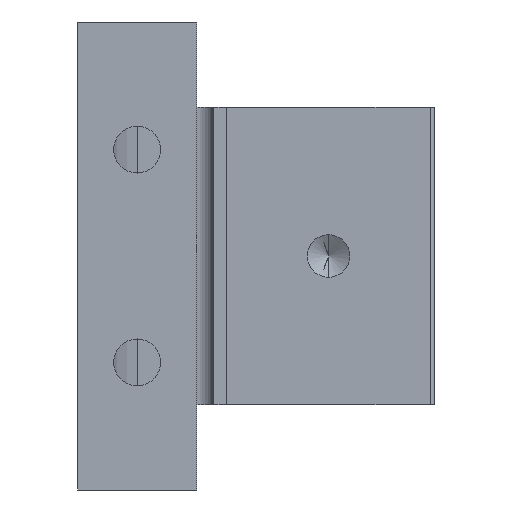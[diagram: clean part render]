
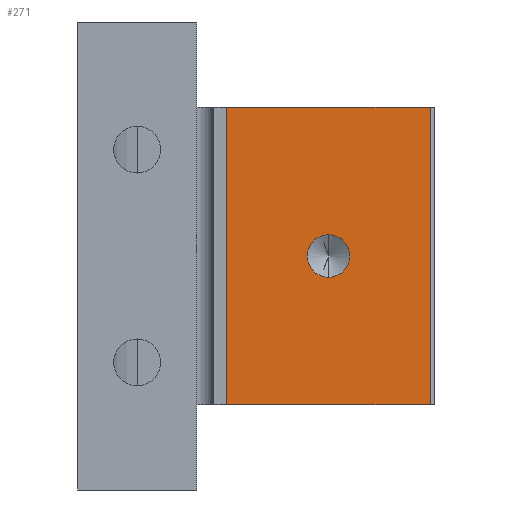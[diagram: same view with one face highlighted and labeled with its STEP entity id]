
A CAD part, front view. The second image highlights one B-rep face of the part: STEP entity #271.
In plain terms, the highlighted planar face has unit normal (0, -1, 0).
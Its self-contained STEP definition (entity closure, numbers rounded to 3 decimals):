
#57 = LINE ( 'NONE', #1764, #832 ) ;
#67 = VERTEX_POINT ( 'NONE', #1450 ) ;
#116 = ORIENTED_EDGE ( 'NONE', *, *, #1271, .T. ) ;
#249 = VECTOR ( 'NONE', #1742, 1000. ) ;
#271 = ADVANCED_FACE ( 'NONE', ( #2025, #1137 ), #1850, .F. ) ;
#279 = DIRECTION ( 'NONE',  ( 0., -1., 0. ) ) ;
#288 = EDGE_CURVE ( 'NONE', #1881, #67, #671, .T. ) ;
#303 = DIRECTION ( 'NONE',  ( 0., 0., 1. ) ) ;
#380 = ORIENTED_EDGE ( 'NONE', *, *, #1146, .T. ) ;
#536 = CIRCLE ( 'NONE', #1803, 2.5 ) ;
#577 = DIRECTION ( 'NONE',  ( 0., 0., -1. ) ) ;
#596 = DIRECTION ( 'NONE',  ( 0., -1., 0. ) ) ;
#628 = VERTEX_POINT ( 'NONE', #842 ) ;
#632 = CARTESIAN_POINT ( 'NONE',  ( 10.5, -16., 17.5 ) ) ;
#671 = LINE ( 'NONE', #1251, #1897 ) ;
#730 = ORIENTED_EDGE ( 'NONE', *, *, #288, .T. ) ;
#761 = DIRECTION ( 'NONE',  ( 0., 0., -1. ) ) ;
#832 = VECTOR ( 'NONE', #1445, 1000. ) ;
#842 = CARTESIAN_POINT ( 'NONE',  ( 22.5, -16., -2.5 ) ) ;
#871 = ORIENTED_EDGE ( 'NONE', *, *, #896, .F. ) ;
#894 = CARTESIAN_POINT ( 'NONE',  ( 22.5, -16., 0. ) ) ;
#896 = EDGE_CURVE ( 'NONE', #628, #1588, #1527, .T. ) ;
#925 = CARTESIAN_POINT ( 'NONE',  ( 22.5, -16., 2.5 ) ) ;
#950 = DIRECTION ( 'NONE',  ( 0., 1., 0. ) ) ;
#996 = AXIS2_PLACEMENT_3D ( 'NONE', #1241, #596, #761 ) ;
#1008 = LINE ( 'NONE', #1102, #1759 ) ;
#1025 = ORIENTED_EDGE ( 'NONE', *, *, #1437, .F. ) ;
#1046 = EDGE_LOOP ( 'NONE', ( #871, #1025 ) ) ;
#1100 = DIRECTION ( 'NONE',  ( 0., 0., 1. ) ) ;
#1102 = CARTESIAN_POINT ( 'NONE',  ( 10.5, -16., 17.5 ) ) ;
#1137 = FACE_OUTER_BOUND ( 'NONE', #1486, .T. ) ;
#1146 = EDGE_CURVE ( 'NONE', #1536, #1416, #1209, .T. ) ;
#1209 = LINE ( 'NONE', #632, #249 ) ;
#1241 = CARTESIAN_POINT ( 'NONE',  ( 22.5, -16., 0. ) ) ;
#1251 = CARTESIAN_POINT ( 'NONE',  ( 34.443, -16., 17.5 ) ) ;
#1271 = EDGE_CURVE ( 'NONE', #1416, #1881, #57, .T. ) ;
#1318 = ORIENTED_EDGE ( 'NONE', *, *, #1756, .F. ) ;
#1416 = VERTEX_POINT ( 'NONE', #1513 ) ;
#1424 = DIRECTION ( 'NONE',  ( 1., 0., 0. ) ) ;
#1437 = EDGE_CURVE ( 'NONE', #1588, #628, #536, .T. ) ;
#1445 = DIRECTION ( 'NONE',  ( 1., 0., 0. ) ) ;
#1450 = CARTESIAN_POINT ( 'NONE',  ( 34.443, -16., 17.5 ) ) ;
#1486 = EDGE_LOOP ( 'NONE', ( #116, #730, #1318, #380 ) ) ;
#1503 = CARTESIAN_POINT ( 'NONE',  ( 10.5, -16., 17.5 ) ) ;
#1513 = CARTESIAN_POINT ( 'NONE',  ( 10.5, -16., -17.5 ) ) ;
#1527 = CIRCLE ( 'NONE', #996, 2.5 ) ;
#1536 = VERTEX_POINT ( 'NONE', #1503 ) ;
#1569 = CARTESIAN_POINT ( 'NONE',  ( 10.5, -16., 17.5 ) ) ;
#1572 = CARTESIAN_POINT ( 'NONE',  ( 34.443, -16., -17.5 ) ) ;
#1588 = VERTEX_POINT ( 'NONE', #925 ) ;
#1742 = DIRECTION ( 'NONE',  ( 0., 0., -1. ) ) ;
#1756 = EDGE_CURVE ( 'NONE', #1536, #67, #1008, .T. ) ;
#1759 = VECTOR ( 'NONE', #1424, 1000. ) ;
#1764 = CARTESIAN_POINT ( 'NONE',  ( 10.5, -16., -17.5 ) ) ;
#1803 = AXIS2_PLACEMENT_3D ( 'NONE', #894, #279, #577 ) ;
#1850 = PLANE ( 'NONE',  #2006 ) ;
#1881 = VERTEX_POINT ( 'NONE', #1572 ) ;
#1897 = VECTOR ( 'NONE', #303, 1000. ) ;
#2006 = AXIS2_PLACEMENT_3D ( 'NONE', #1569, #950, #1100 ) ;
#2025 = FACE_BOUND ( 'NONE', #1046, .T. ) ;
